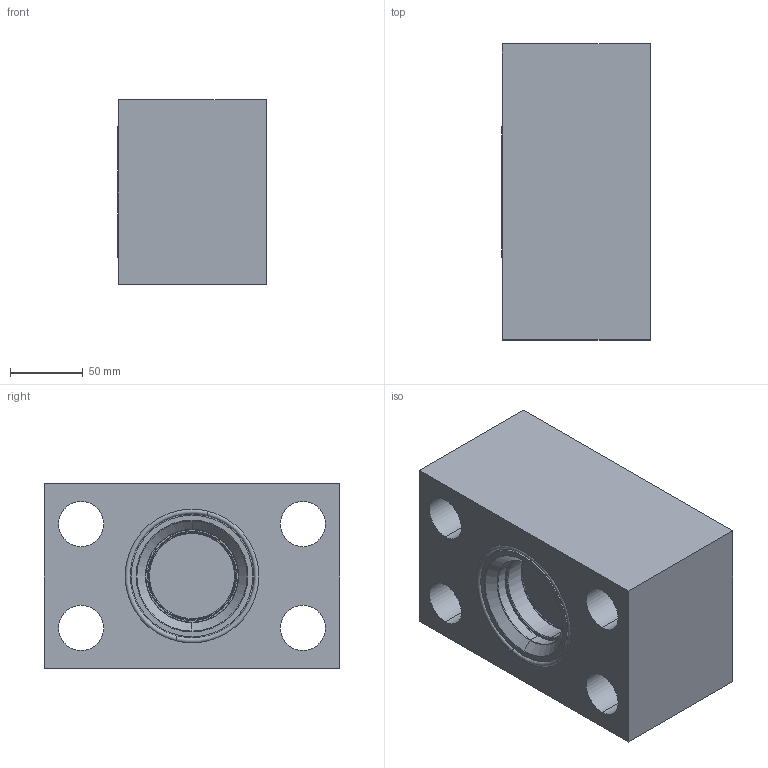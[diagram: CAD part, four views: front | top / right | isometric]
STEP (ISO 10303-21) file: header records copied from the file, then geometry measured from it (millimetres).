
FILE_DESCRIPTION (( 'STEP AP214' ), '1' );
FILE_NAME ('ICFT B 6248 XXXX.STEP', '2026-03-23T15:10:33', ( '' ), ( '' ), 'SwSTEP 2.0', 'SolidWorks 2025', '' );
FILE_SCHEMA (( 'AUTOMOTIVE_DESIGN' ));
Length unit declared in the file: inch
Products named in the file (1): ICFT B 6248 XXXX
Bounding box: 102.11 x 203.2 x 127 mm (x, y, z)
Volume: 2008672.9 mm3; surface area: 250528.1 mm2
Topology: 3 solids, 5 shells, 473 faces, 1165 edges, 756 vertices
Faces by surface type: plane 253, bspline 88, cylinder 60, cone 50, torus 22
Entity records: 18884 total; most frequent: CARTESIAN_POINT 8035, ORIENTED_EDGE 2330, DIRECTION 1969, EDGE_CURVE 1165, LINE 765, VECTOR 765, VERTEX_POINT 756, AXIS2_PLACEMENT_3D 602
